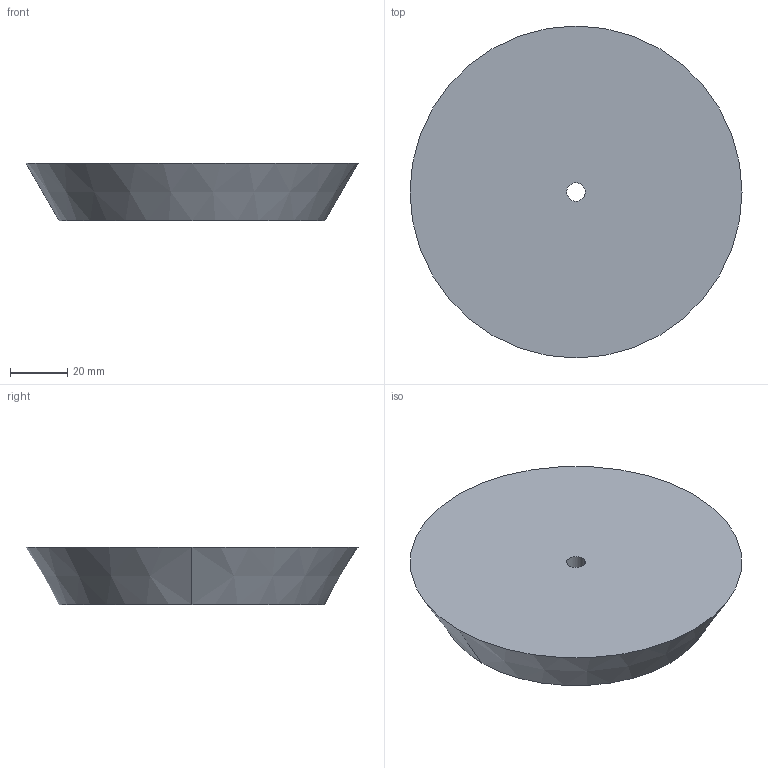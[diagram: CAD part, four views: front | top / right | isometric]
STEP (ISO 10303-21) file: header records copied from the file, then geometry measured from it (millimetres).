
FILE_DESCRIPTION(('CATIA V5 STEP Exchange'),'2;1');
FILE_NAME('C:\Users\andres.garcia\OneDrive - IQS\ASIGNATURAS\DAO\Controles\2223\c0\c1-CALVET_Ignacio-tapon.stp','2023-02-03T08:22:03+00:00',('none'),('none'),'CATIA Version 5-6 Release 2013 SP6','CATIA V5 STEP AP203','none');
FILE_SCHEMA(('CONFIG_CONTROL_DESIGN'));
Length unit declared in the file: millimetre
Products named in the file (1): c1-CALVET_Ignacio-tapon
Bounding box: 116 x 116 x 20 mm (x, y, z)
Volume: 171415.1 mm3; surface area: 25267.8 mm2
Topology: 1 solids, 1 shells, 6 faces, 12 edges, 8 vertices
Faces by surface type: cylinder 2, plane 2, cone 2
Entity records: 196 total; most frequent: CARTESIAN_POINT 26, ORIENTED_EDGE 24, DIRECTION 22, AXIS2_PLACEMENT_3D 14, EDGE_CURVE 12, CIRCLE 8, EDGE_LOOP 8, VERTEX_POINT 8
